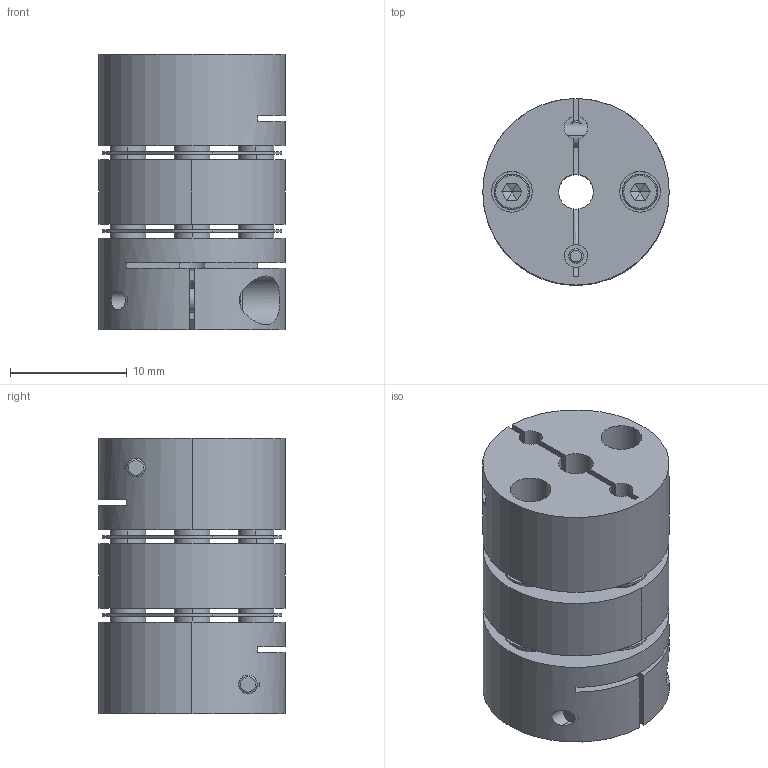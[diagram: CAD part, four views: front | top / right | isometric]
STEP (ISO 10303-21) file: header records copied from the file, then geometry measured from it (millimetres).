
FILE_DESCRIPTION (( 'STEP AP214' ), '1' );
FILE_NAME ('LC-A-005DA-3B-3B.STEP', '2019-09-12T07:13:41', ( 'admin' ), ( 'Microsoft' ), 'SwSTEP 2.0', 'SolidWorks 2016', '' );
FILE_SCHEMA (( 'AUTOMOTIVE_DESIGN' ));
Length unit declared in the file: millimetre
Products named in the file (1): LC-A-005DA-3B-3B
Bounding box: 16 x 16 x 23.6 mm (x, y, z)
Volume: 3502.7 mm3; surface area: 4858.6 mm2
Topology: 31 solids, 31 shells, 518 faces, 1182 edges, 738 vertices
Faces by surface type: plane 240, cylinder 218, torus 40, cone 20
Entity records: 21044 total; most frequent: CARTESIAN_POINT 2759, DIRECTION 2732, ORIENTED_EDGE 2364, EDGE_CURVE 1182, AXIS2_PLACEMENT_3D 1063, VERTEX_POINT 738, EDGE_LOOP 628, VECTOR 606
